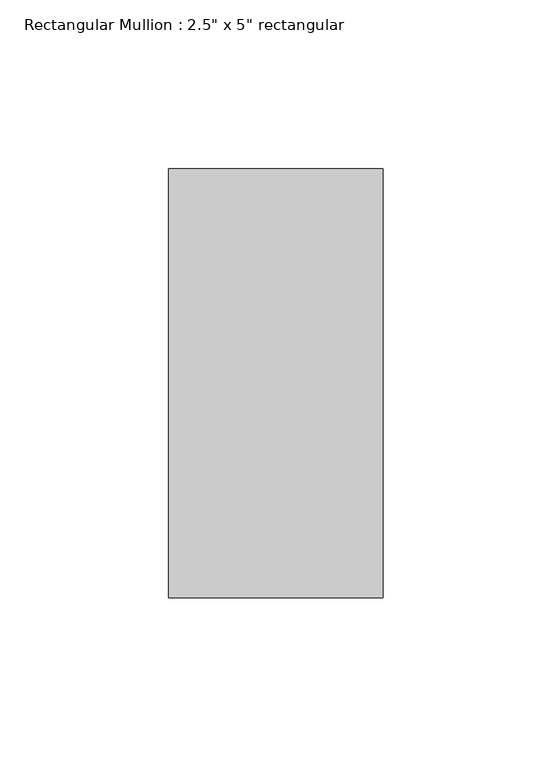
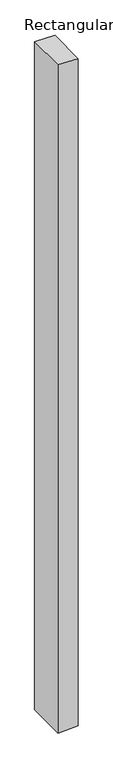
"""IFC4 building model written with IfcOpenShell, lengths in millimetres: member geometry."""

from ifc_helpers import new_model, si_unit, frame, origin, place, context, project, spatial, polyline, outline, extrude, source, transform, mapped, element, save


def member_825d3a4a(model_context):
    return source(origin(), model_context, "Body", "SweptSolid", [
        extrude(outline(polyline([(0.0, 0.0), (1.4563219, -63.5), (-2216.9068779, -63.5), (-2214.8638527, 0.0), (0.0, 0.0)])), frame((0.0, -63.5, 0.0), z_axis=(0.0, 1.0, 0.0), x_axis=(0.0, 0.0, 1.0)), (0.0, 0.0, 1.0), 127.0),
    ])


if __name__ == "__main__":
    model = new_model("IFC4")
    model_context = context("Model", 3, world=origin())
    ifc_project = project(units=[si_unit("LENGTHUNIT", "METRE", prefix="MILLI")], contexts=[model_context])
    site = spatial("IfcSite", under=ifc_project)
    building = spatial("IfcBuilding", under=site)
    placement = place(None, origin())
    member_shape = member_825d3a4a(model_context)
    element("IfcMember", 1, ObjectType="Rectangular Mullion : 2.5\" x 5\" rectangular", at=placement, inside=building, context=model_context, shape_type="MappedRepresentation", body=[
        mapped(member_shape, transform((0.0, 0.0, 0.0), x_axis=(1.0, 0.0, 0.0), y_axis=(0.0, 1.0, 0.0), z_axis=(0.0, 0.0, 1.0))),
    ])
    save(model, "model.ifc")
